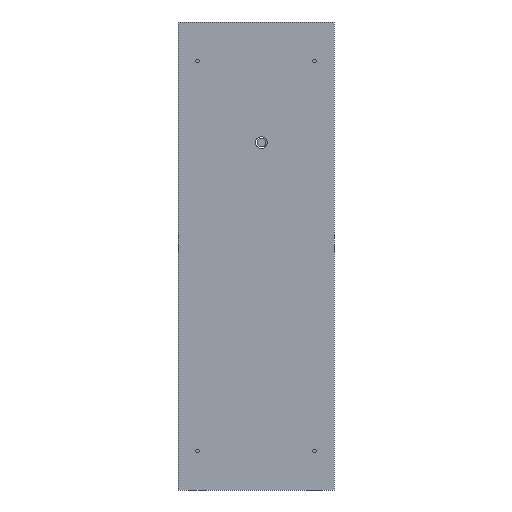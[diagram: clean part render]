
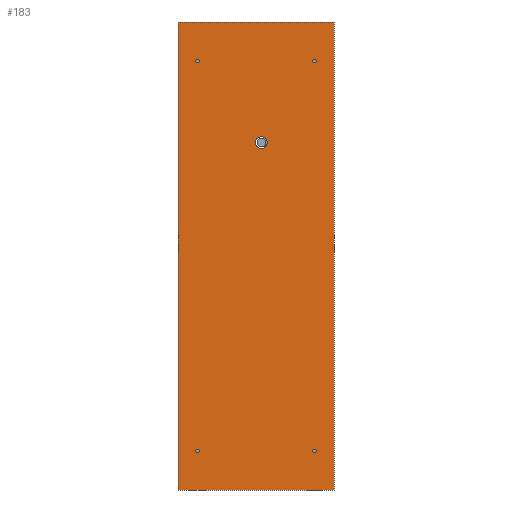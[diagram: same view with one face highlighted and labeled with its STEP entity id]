
A CAD part, front view. The second image highlights one B-rep face of the part: STEP entity #183.
In plain terms, the highlighted planar face has unit normal (0, -1, 0).
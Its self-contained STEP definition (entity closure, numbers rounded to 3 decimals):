
#67 = EDGE_CURVE('',#68,#70,#72,.T.);
#68 = VERTEX_POINT('',#69);
#69 = CARTESIAN_POINT('',(-100.,-51.5,12.));
#70 = VERTEX_POINT('',#71);
#71 = CARTESIAN_POINT('',(-100.,-51.5,612.));
#72 = SURFACE_CURVE('',#73,(#77,#89),.PCURVE_S1.);
#73 = LINE('',#74,#75);
#74 = CARTESIAN_POINT('',(-100.,-51.5,12.));
#75 = VECTOR('',#76,1.);
#76 = DIRECTION('',(0.,0.,1.));
#77 = PCURVE('',#78,#83);
#78 = PLANE('',#79);
#79 = AXIS2_PLACEMENT_3D('',#80,#81,#82);
#80 = CARTESIAN_POINT('',(-100.,-51.5,12.));
#81 = DIRECTION('',(1.,0.,0.));
#82 = DIRECTION('',(0.,0.,1.));
#83 = DEFINITIONAL_REPRESENTATION('',(#84),#88);
#84 = LINE('',#85,#86);
#85 = CARTESIAN_POINT('',(0.,0.));
#86 = VECTOR('',#87,1.);
#87 = DIRECTION('',(1.,0.));
#88 = ( GEOMETRIC_REPRESENTATION_CONTEXT(2) 
PARAMETRIC_REPRESENTATION_CONTEXT() REPRESENTATION_CONTEXT('2D SPACE',''
  ) );
#89 = PCURVE('',#90,#95);
#90 = PLANE('',#91);
#91 = AXIS2_PLACEMENT_3D('',#92,#93,#94);
#92 = CARTESIAN_POINT('',(-100.,-51.5,12.));
#93 = DIRECTION('',(0.,1.,0.));
#94 = DIRECTION('',(0.,0.,1.));
#95 = DEFINITIONAL_REPRESENTATION('',(#96),#100);
#96 = LINE('',#97,#98);
#97 = CARTESIAN_POINT('',(0.,0.));
#98 = VECTOR('',#99,1.);
#99 = DIRECTION('',(1.,0.));
#100 = ( GEOMETRIC_REPRESENTATION_CONTEXT(2) 
PARAMETRIC_REPRESENTATION_CONTEXT() REPRESENTATION_CONTEXT('2D SPACE',''
  ) );
#118 = PLANE('',#119);
#119 = AXIS2_PLACEMENT_3D('',#120,#121,#122);
#120 = CARTESIAN_POINT('',(-100.,-51.5,12.));
#121 = DIRECTION('',(0.,0.,1.));
#122 = DIRECTION('',(1.,0.,0.));
#172 = PLANE('',#173);
#173 = AXIS2_PLACEMENT_3D('',#174,#175,#176);
#174 = CARTESIAN_POINT('',(-100.,-51.5,612.));
#175 = DIRECTION('',(0.,0.,1.));
#176 = DIRECTION('',(1.,0.,0.));
#183 = ADVANCED_FACE('',(#184,#259,#290,#321,#352,#383),#90,.F.);
#184 = FACE_BOUND('',#185,.F.);
#185 = EDGE_LOOP('',(#186,#209,#210,#233));
#186 = ORIENTED_EDGE('',*,*,#187,.F.);
#187 = EDGE_CURVE('',#68,#188,#190,.T.);
#188 = VERTEX_POINT('',#189);
#189 = CARTESIAN_POINT('',(100.,-51.5,12.));
#190 = SURFACE_CURVE('',#191,(#195,#202),.PCURVE_S1.);
#191 = LINE('',#192,#193);
#192 = CARTESIAN_POINT('',(-100.,-51.5,12.));
#193 = VECTOR('',#194,1.);
#194 = DIRECTION('',(1.,0.,0.));
#195 = PCURVE('',#90,#196);
#196 = DEFINITIONAL_REPRESENTATION('',(#197),#201);
#197 = LINE('',#198,#199);
#198 = CARTESIAN_POINT('',(0.,0.));
#199 = VECTOR('',#200,1.);
#200 = DIRECTION('',(0.,1.));
#201 = ( GEOMETRIC_REPRESENTATION_CONTEXT(2) 
PARAMETRIC_REPRESENTATION_CONTEXT() REPRESENTATION_CONTEXT('2D SPACE',''
  ) );
#202 = PCURVE('',#118,#203);
#203 = DEFINITIONAL_REPRESENTATION('',(#204),#208);
#204 = LINE('',#205,#206);
#205 = CARTESIAN_POINT('',(0.,0.));
#206 = VECTOR('',#207,1.);
#207 = DIRECTION('',(1.,0.));
#208 = ( GEOMETRIC_REPRESENTATION_CONTEXT(2) 
PARAMETRIC_REPRESENTATION_CONTEXT() REPRESENTATION_CONTEXT('2D SPACE',''
  ) );
#209 = ORIENTED_EDGE('',*,*,#67,.T.);
#210 = ORIENTED_EDGE('',*,*,#211,.T.);
#211 = EDGE_CURVE('',#70,#212,#214,.T.);
#212 = VERTEX_POINT('',#213);
#213 = CARTESIAN_POINT('',(100.,-51.5,612.));
#214 = SURFACE_CURVE('',#215,(#219,#226),.PCURVE_S1.);
#215 = LINE('',#216,#217);
#216 = CARTESIAN_POINT('',(-100.,-51.5,612.));
#217 = VECTOR('',#218,1.);
#218 = DIRECTION('',(1.,0.,0.));
#219 = PCURVE('',#90,#220);
#220 = DEFINITIONAL_REPRESENTATION('',(#221),#225);
#221 = LINE('',#222,#223);
#222 = CARTESIAN_POINT('',(600.,0.));
#223 = VECTOR('',#224,1.);
#224 = DIRECTION('',(0.,1.));
#225 = ( GEOMETRIC_REPRESENTATION_CONTEXT(2) 
PARAMETRIC_REPRESENTATION_CONTEXT() REPRESENTATION_CONTEXT('2D SPACE',''
  ) );
#226 = PCURVE('',#172,#227);
#227 = DEFINITIONAL_REPRESENTATION('',(#228),#232);
#228 = LINE('',#229,#230);
#229 = CARTESIAN_POINT('',(0.,0.));
#230 = VECTOR('',#231,1.);
#231 = DIRECTION('',(1.,0.));
#232 = ( GEOMETRIC_REPRESENTATION_CONTEXT(2) 
PARAMETRIC_REPRESENTATION_CONTEXT() REPRESENTATION_CONTEXT('2D SPACE',''
  ) );
#233 = ORIENTED_EDGE('',*,*,#234,.F.);
#234 = EDGE_CURVE('',#188,#212,#235,.T.);
#235 = SURFACE_CURVE('',#236,(#240,#247),.PCURVE_S1.);
#236 = LINE('',#237,#238);
#237 = CARTESIAN_POINT('',(100.,-51.5,12.));
#238 = VECTOR('',#239,1.);
#239 = DIRECTION('',(0.,0.,1.));
#240 = PCURVE('',#90,#241);
#241 = DEFINITIONAL_REPRESENTATION('',(#242),#246);
#242 = LINE('',#243,#244);
#243 = CARTESIAN_POINT('',(0.,200.));
#244 = VECTOR('',#245,1.);
#245 = DIRECTION('',(1.,0.));
#246 = ( GEOMETRIC_REPRESENTATION_CONTEXT(2) 
PARAMETRIC_REPRESENTATION_CONTEXT() REPRESENTATION_CONTEXT('2D SPACE',''
  ) );
#247 = PCURVE('',#248,#253);
#248 = PLANE('',#249);
#249 = AXIS2_PLACEMENT_3D('',#250,#251,#252);
#250 = CARTESIAN_POINT('',(100.,-51.5,12.));
#251 = DIRECTION('',(1.,0.,0.));
#252 = DIRECTION('',(0.,0.,1.));
#253 = DEFINITIONAL_REPRESENTATION('',(#254),#258);
#254 = LINE('',#255,#256);
#255 = CARTESIAN_POINT('',(0.,0.));
#256 = VECTOR('',#257,1.);
#257 = DIRECTION('',(1.,0.));
#258 = ( GEOMETRIC_REPRESENTATION_CONTEXT(2) 
PARAMETRIC_REPRESENTATION_CONTEXT() REPRESENTATION_CONTEXT('2D SPACE',''
  ) );
#259 = FACE_BOUND('',#260,.F.);
#260 = EDGE_LOOP('',(#261));
#261 = ORIENTED_EDGE('',*,*,#262,.F.);
#262 = EDGE_CURVE('',#263,#263,#265,.T.);
#263 = VERTEX_POINT('',#264);
#264 = CARTESIAN_POINT('',(-75.,-51.5,64.25));
#265 = SURFACE_CURVE('',#266,(#271,#278),.PCURVE_S1.);
#266 = CIRCLE('',#267,2.25);
#267 = AXIS2_PLACEMENT_3D('',#268,#269,#270);
#268 = CARTESIAN_POINT('',(-75.,-51.5,62.));
#269 = DIRECTION('',(0.,1.,0.));
#270 = DIRECTION('',(0.,-0.,1.));
#271 = PCURVE('',#90,#272);
#272 = DEFINITIONAL_REPRESENTATION('',(#273),#277);
#273 = CIRCLE('',#274,2.25);
#274 = AXIS2_PLACEMENT_2D('',#275,#276);
#275 = CARTESIAN_POINT('',(50.,25.));
#276 = DIRECTION('',(1.,0.));
#277 = ( GEOMETRIC_REPRESENTATION_CONTEXT(2) 
PARAMETRIC_REPRESENTATION_CONTEXT() REPRESENTATION_CONTEXT('2D SPACE',''
  ) );
#278 = PCURVE('',#279,#284);
#279 = CYLINDRICAL_SURFACE('',#280,2.25);
#280 = AXIS2_PLACEMENT_3D('',#281,#282,#283);
#281 = CARTESIAN_POINT('',(-75.,-51.5,62.));
#282 = DIRECTION('',(0.,1.,0.));
#283 = DIRECTION('',(0.,-0.,1.));
#284 = DEFINITIONAL_REPRESENTATION('',(#285),#289);
#285 = LINE('',#286,#287);
#286 = CARTESIAN_POINT('',(0.,0.));
#287 = VECTOR('',#288,1.);
#288 = DIRECTION('',(1.,0.));
#289 = ( GEOMETRIC_REPRESENTATION_CONTEXT(2) 
PARAMETRIC_REPRESENTATION_CONTEXT() REPRESENTATION_CONTEXT('2D SPACE',''
  ) );
#290 = FACE_BOUND('',#291,.F.);
#291 = EDGE_LOOP('',(#292));
#292 = ORIENTED_EDGE('',*,*,#293,.F.);
#293 = EDGE_CURVE('',#294,#294,#296,.T.);
#294 = VERTEX_POINT('',#295);
#295 = CARTESIAN_POINT('',(-75.,-51.5,564.25));
#296 = SURFACE_CURVE('',#297,(#302,#309),.PCURVE_S1.);
#297 = CIRCLE('',#298,2.25);
#298 = AXIS2_PLACEMENT_3D('',#299,#300,#301);
#299 = CARTESIAN_POINT('',(-75.,-51.5,562.));
#300 = DIRECTION('',(0.,1.,0.));
#301 = DIRECTION('',(0.,-0.,1.));
#302 = PCURVE('',#90,#303);
#303 = DEFINITIONAL_REPRESENTATION('',(#304),#308);
#304 = CIRCLE('',#305,2.25);
#305 = AXIS2_PLACEMENT_2D('',#306,#307);
#306 = CARTESIAN_POINT('',(550.,25.));
#307 = DIRECTION('',(1.,0.));
#308 = ( GEOMETRIC_REPRESENTATION_CONTEXT(2) 
PARAMETRIC_REPRESENTATION_CONTEXT() REPRESENTATION_CONTEXT('2D SPACE',''
  ) );
#309 = PCURVE('',#310,#315);
#310 = CYLINDRICAL_SURFACE('',#311,2.25);
#311 = AXIS2_PLACEMENT_3D('',#312,#313,#314);
#312 = CARTESIAN_POINT('',(-75.,-51.5,562.));
#313 = DIRECTION('',(0.,1.,0.));
#314 = DIRECTION('',(0.,-0.,1.));
#315 = DEFINITIONAL_REPRESENTATION('',(#316),#320);
#316 = LINE('',#317,#318);
#317 = CARTESIAN_POINT('',(0.,0.));
#318 = VECTOR('',#319,1.);
#319 = DIRECTION('',(1.,0.));
#320 = ( GEOMETRIC_REPRESENTATION_CONTEXT(2) 
PARAMETRIC_REPRESENTATION_CONTEXT() REPRESENTATION_CONTEXT('2D SPACE',''
  ) );
#321 = FACE_BOUND('',#322,.F.);
#322 = EDGE_LOOP('',(#323));
#323 = ORIENTED_EDGE('',*,*,#324,.F.);
#324 = EDGE_CURVE('',#325,#325,#327,.T.);
#325 = VERTEX_POINT('',#326);
#326 = CARTESIAN_POINT('',(75.,-51.5,64.25));
#327 = SURFACE_CURVE('',#328,(#333,#340),.PCURVE_S1.);
#328 = CIRCLE('',#329,2.25);
#329 = AXIS2_PLACEMENT_3D('',#330,#331,#332);
#330 = CARTESIAN_POINT('',(75.,-51.5,62.));
#331 = DIRECTION('',(0.,1.,0.));
#332 = DIRECTION('',(0.,-0.,1.));
#333 = PCURVE('',#90,#334);
#334 = DEFINITIONAL_REPRESENTATION('',(#335),#339);
#335 = CIRCLE('',#336,2.25);
#336 = AXIS2_PLACEMENT_2D('',#337,#338);
#337 = CARTESIAN_POINT('',(50.,175.));
#338 = DIRECTION('',(1.,0.));
#339 = ( GEOMETRIC_REPRESENTATION_CONTEXT(2) 
PARAMETRIC_REPRESENTATION_CONTEXT() REPRESENTATION_CONTEXT('2D SPACE',''
  ) );
#340 = PCURVE('',#341,#346);
#341 = CYLINDRICAL_SURFACE('',#342,2.25);
#342 = AXIS2_PLACEMENT_3D('',#343,#344,#345);
#343 = CARTESIAN_POINT('',(75.,-51.5,62.));
#344 = DIRECTION('',(0.,1.,0.));
#345 = DIRECTION('',(0.,-0.,1.));
#346 = DEFINITIONAL_REPRESENTATION('',(#347),#351);
#347 = LINE('',#348,#349);
#348 = CARTESIAN_POINT('',(0.,0.));
#349 = VECTOR('',#350,1.);
#350 = DIRECTION('',(1.,0.));
#351 = ( GEOMETRIC_REPRESENTATION_CONTEXT(2) 
PARAMETRIC_REPRESENTATION_CONTEXT() REPRESENTATION_CONTEXT('2D SPACE',''
  ) );
#352 = FACE_BOUND('',#353,.F.);
#353 = EDGE_LOOP('',(#354));
#354 = ORIENTED_EDGE('',*,*,#355,.F.);
#355 = EDGE_CURVE('',#356,#356,#358,.T.);
#356 = VERTEX_POINT('',#357);
#357 = CARTESIAN_POINT('',(7.,-51.5,465.));
#358 = SURFACE_CURVE('',#359,(#364,#371),.PCURVE_S1.);
#359 = CIRCLE('',#360,7.5);
#360 = AXIS2_PLACEMENT_3D('',#361,#362,#363);
#361 = CARTESIAN_POINT('',(7.,-51.5,457.5));
#362 = DIRECTION('',(0.,1.,0.));
#363 = DIRECTION('',(0.,-0.,1.));
#364 = PCURVE('',#90,#365);
#365 = DEFINITIONAL_REPRESENTATION('',(#366),#370);
#366 = CIRCLE('',#367,7.5);
#367 = AXIS2_PLACEMENT_2D('',#368,#369);
#368 = CARTESIAN_POINT('',(445.5,107.));
#369 = DIRECTION('',(1.,0.));
#370 = ( GEOMETRIC_REPRESENTATION_CONTEXT(2) 
PARAMETRIC_REPRESENTATION_CONTEXT() REPRESENTATION_CONTEXT('2D SPACE',''
  ) );
#371 = PCURVE('',#372,#377);
#372 = CYLINDRICAL_SURFACE('',#373,7.5);
#373 = AXIS2_PLACEMENT_3D('',#374,#375,#376);
#374 = CARTESIAN_POINT('',(7.,-51.5,457.5));
#375 = DIRECTION('',(0.,1.,0.));
#376 = DIRECTION('',(0.,-0.,1.));
#377 = DEFINITIONAL_REPRESENTATION('',(#378),#382);
#378 = LINE('',#379,#380);
#379 = CARTESIAN_POINT('',(0.,0.));
#380 = VECTOR('',#381,1.);
#381 = DIRECTION('',(1.,0.));
#382 = ( GEOMETRIC_REPRESENTATION_CONTEXT(2) 
PARAMETRIC_REPRESENTATION_CONTEXT() REPRESENTATION_CONTEXT('2D SPACE',''
  ) );
#383 = FACE_BOUND('',#384,.F.);
#384 = EDGE_LOOP('',(#385));
#385 = ORIENTED_EDGE('',*,*,#386,.F.);
#386 = EDGE_CURVE('',#387,#387,#389,.T.);
#387 = VERTEX_POINT('',#388);
#388 = CARTESIAN_POINT('',(75.,-51.5,564.25));
#389 = SURFACE_CURVE('',#390,(#395,#402),.PCURVE_S1.);
#390 = CIRCLE('',#391,2.25);
#391 = AXIS2_PLACEMENT_3D('',#392,#393,#394);
#392 = CARTESIAN_POINT('',(75.,-51.5,562.));
#393 = DIRECTION('',(0.,1.,0.));
#394 = DIRECTION('',(0.,-0.,1.));
#395 = PCURVE('',#90,#396);
#396 = DEFINITIONAL_REPRESENTATION('',(#397),#401);
#397 = CIRCLE('',#398,2.25);
#398 = AXIS2_PLACEMENT_2D('',#399,#400);
#399 = CARTESIAN_POINT('',(550.,175.));
#400 = DIRECTION('',(1.,0.));
#401 = ( GEOMETRIC_REPRESENTATION_CONTEXT(2) 
PARAMETRIC_REPRESENTATION_CONTEXT() REPRESENTATION_CONTEXT('2D SPACE',''
  ) );
#402 = PCURVE('',#403,#408);
#403 = CYLINDRICAL_SURFACE('',#404,2.25);
#404 = AXIS2_PLACEMENT_3D('',#405,#406,#407);
#405 = CARTESIAN_POINT('',(75.,-51.5,562.));
#406 = DIRECTION('',(0.,1.,0.));
#407 = DIRECTION('',(0.,-0.,1.));
#408 = DEFINITIONAL_REPRESENTATION('',(#409),#413);
#409 = LINE('',#410,#411);
#410 = CARTESIAN_POINT('',(0.,0.));
#411 = VECTOR('',#412,1.);
#412 = DIRECTION('',(1.,0.));
#413 = ( GEOMETRIC_REPRESENTATION_CONTEXT(2) 
PARAMETRIC_REPRESENTATION_CONTEXT() REPRESENTATION_CONTEXT('2D SPACE',''
  ) );
